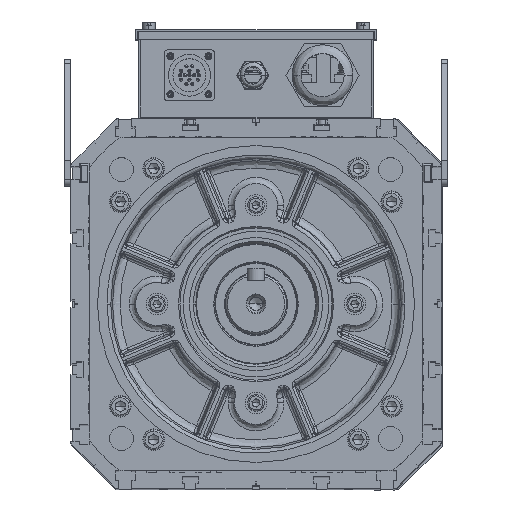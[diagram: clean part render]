
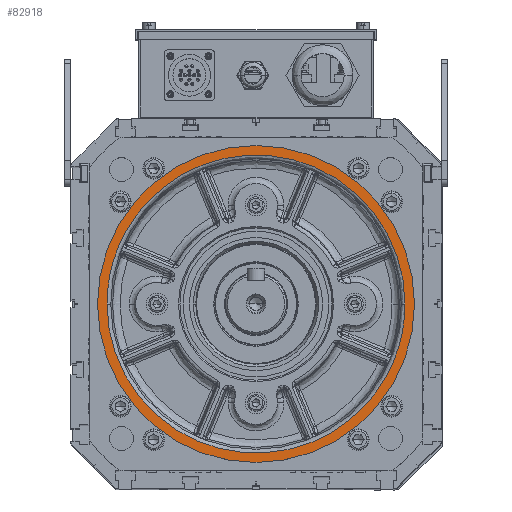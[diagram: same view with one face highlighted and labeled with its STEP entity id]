
A CAD part, top view. The second image highlights one B-rep face of the part: STEP entity #82918.
In plain terms, the highlighted planar face has unit normal (0, 0, 1) as drawn and (0, 0, -1) by its records, which use the part's own axes.
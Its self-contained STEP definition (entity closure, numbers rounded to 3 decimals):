
#1559 = ORIENTED_EDGE ( 'NONE', *, *, #107623, .F. ) ;
#9513 = CIRCLE ( 'NONE', #35502, 125. ) ;
#11769 = CARTESIAN_POINT ( 'NONE',  ( -59.315, 240.89, 132.5 ) ) ;
#13748 =( BOUNDED_CURVE ( )  B_SPLINE_CURVE ( 3, ( #82612, #11769, #131303, #106900 ),
 .UNSPECIFIED., .F., .F. ) 
 B_SPLINE_CURVE_WITH_KNOTS ( ( 4, 4 ),
 ( 0., 1. ),
 .UNSPECIFIED. ) 
 CURVE ( )  GEOMETRIC_REPRESENTATION_ITEM ( )  RATIONAL_B_SPLINE_CURVE ( ( 1., 0.333, 0.333, 1. ) ) 
 REPRESENTATION_ITEM ( '' )  );
#16345 = VERTEX_POINT ( 'NONE', #107038 ) ;
#17077 = CARTESIAN_POINT ( 'NONE',  ( 175.72, 5.856, 132.5 ) ) ;
#18564 = CARTESIAN_POINT ( 'NONE',  ( 58.202, 130.856, 132.5 ) ) ;
#24870 = VERTEX_POINT ( 'NONE', #70498 ) ;
#25125 = DIRECTION ( 'NONE',  ( 0., 0., 1. ) ) ;
#33757 = CARTESIAN_POINT ( 'NONE',  ( 58.202, 5.856, 132.5 ) ) ;
#35502 = AXIS2_PLACEMENT_3D ( 'NONE', #33757, #45620, #69439 ) ;
#38135 =( BOUNDED_CURVE ( )  B_SPLINE_CURVE ( 3, ( #53345, #66227, #54912, #113305 ),
 .UNSPECIFIED., .F., .T. ) 
 B_SPLINE_CURVE_WITH_KNOTS ( ( 4, 4 ),
 ( 0., 1. ),
 .UNSPECIFIED. ) 
 CURVE ( )  GEOMETRIC_REPRESENTATION_ITEM ( )  RATIONAL_B_SPLINE_CURVE ( ( 1., 0.333, 0.333, 1. ) ) 
 REPRESENTATION_ITEM ( '' )  );
#38583 = EDGE_CURVE ( 'NONE', #106393, #24870, #38135, .T. ) ;
#43385 = PLANE ( 'NONE',  #52440 ) ;
#43472 = ORIENTED_EDGE ( 'NONE', *, *, #139333, .F. ) ;
#45620 = DIRECTION ( 'NONE',  ( 0., 0., 1. ) ) ;
#52440 = AXIS2_PLACEMENT_3D ( 'NONE', #18564, #101832, #89946 ) ;
#53345 = CARTESIAN_POINT ( 'NONE',  ( 175.72, 5.856, 132.5 ) ) ;
#54912 = CARTESIAN_POINT ( 'NONE',  ( -59.315, -229.179, 132.5 ) ) ;
#66227 = CARTESIAN_POINT ( 'NONE',  ( 175.72, -229.179, 132.5 ) ) ;
#69439 = DIRECTION ( 'NONE',  ( -1., 0., 0. ) ) ;
#70498 = CARTESIAN_POINT ( 'NONE',  ( -59.315, 5.856, 132.5 ) ) ;
#70946 = EDGE_LOOP ( 'NONE', ( #1559, #111033 ) ) ;
#71173 = CARTESIAN_POINT ( 'NONE',  ( 58.202, 5.856, 132.5 ) ) ;
#73411 = ORIENTED_EDGE ( 'NONE', *, *, #38583, .F. ) ;
#75271 = FACE_OUTER_BOUND ( 'NONE', #70946, .T. ) ;
#78012 = EDGE_CURVE ( 'NONE', #96883, #16345, #145143, .T. ) ;
#82045 = DIRECTION ( 'NONE',  ( -1., 0., 0. ) ) ;
#82612 = CARTESIAN_POINT ( 'NONE',  ( -59.315, 5.856, 132.5 ) ) ;
#82918 = ADVANCED_FACE ( 'NONE', ( #75271, #130904 ), #43385, .F. ) ;
#83444 = CARTESIAN_POINT ( 'NONE',  ( 183.202, 5.856, 132.5 ) ) ;
#89946 = DIRECTION ( 'NONE',  ( 1., 0., 0. ) ) ;
#96883 = VERTEX_POINT ( 'NONE', #83444 ) ;
#101832 = DIRECTION ( 'NONE',  ( 0., 0., 1. ) ) ;
#106393 = VERTEX_POINT ( 'NONE', #17077 ) ;
#106900 = CARTESIAN_POINT ( 'NONE',  ( 175.72, 5.856, 132.5 ) ) ;
#107038 = CARTESIAN_POINT ( 'NONE',  ( -66.798, 5.856, 132.5 ) ) ;
#107623 = EDGE_CURVE ( 'NONE', #16345, #96883, #9513, .T. ) ;
#111033 = ORIENTED_EDGE ( 'NONE', *, *, #78012, .F. ) ;
#113305 = CARTESIAN_POINT ( 'NONE',  ( -59.315, 5.856, 132.5 ) ) ;
#130904 = FACE_BOUND ( 'NONE', #151903, .T. ) ;
#131303 = CARTESIAN_POINT ( 'NONE',  ( 175.72, 240.89, 132.5 ) ) ;
#139333 = EDGE_CURVE ( 'NONE', #24870, #106393, #13748, .T. ) ;
#145143 = CIRCLE ( 'NONE', #150017, 125. ) ;
#150017 = AXIS2_PLACEMENT_3D ( 'NONE', #71173, #25125, #82045 ) ;
#151903 = EDGE_LOOP ( 'NONE', ( #73411, #43472 ) ) ;
